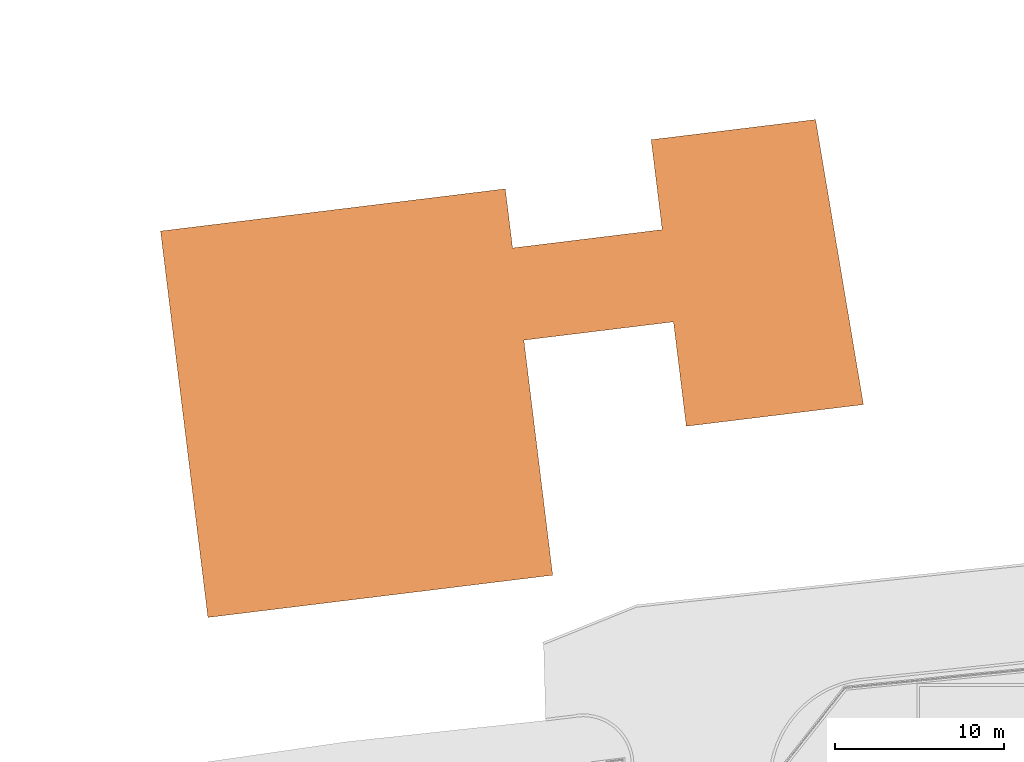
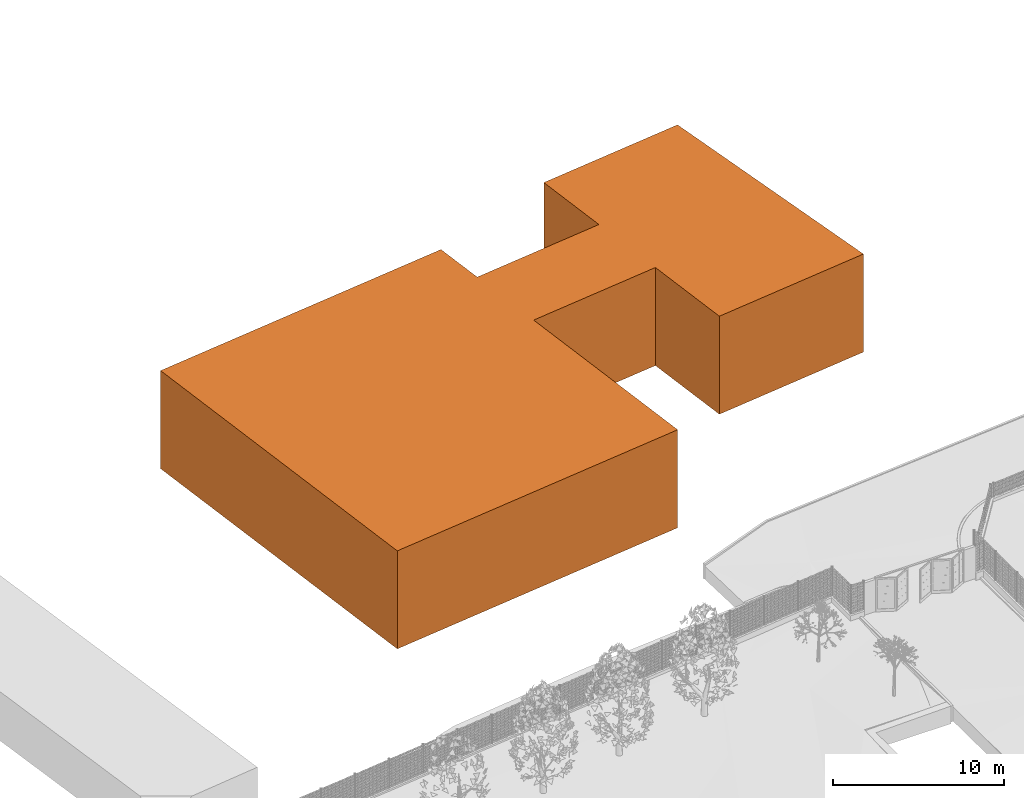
# One storey, part 47 of 1809: 1 proxy.
"""IFC2X3 building model written with IfcOpenShell, lengths in millimetres."""

import ifcopenshell
import ifcopenshell.guid

model = None  # the IFC model being written
_history = None  # IfcOwnerHistory: only IFC2X3 demands one
_inside = {}  # id of a spatial element -> (the spatial element, [elements in it])
_under = {}  # id of a project, library or spatial element -> (it, [spatial elements below it])
_declared = {}  # id of a project -> (the project, [libraries it declares])
_typed = {}  # id of a type object -> (the type object, [elements of that type])
_made_of = {}  # id of a material, layer set ... -> (it, [elements and type objects made of it])


def new_model(schema):
    """Start an empty IFC model of exactly this schema.

    Asked for "IFC4X3", IfcOpenShell would pick the latest addendum, in which some entities
    have other attributes; the version numbers below select the first issue.
    IFC2X3 requires an IfcOwnerHistory on every rooted entity: one is made here for all.
    """
    global model, _history
    if schema == "IFC4X3":
        model = ifcopenshell.file(schema_version=(4, 3, 0, 0))
    else:
        model = ifcopenshell.file(schema=schema)
    _inside.clear()
    _under.clear()
    _declared.clear()
    _typed.clear()
    _made_of.clear()
    _history = None
    if model.schema == "IFC2X3":
        org = make("IfcOrganization", Name="unknown")
        user = make(
            "IfcPersonAndOrganization",
            ThePerson=make("IfcPerson", FamilyName="unknown"),
            TheOrganization=org,
        )
        app = make(
            "IfcApplication",
            ApplicationDeveloper=org,
            Version="unknown",
            ApplicationFullName="unknown",
            ApplicationIdentifier="unknown",
        )
        _history = make(
            "IfcOwnerHistory",
            OwningUser=user,
            OwningApplication=app,
            ChangeAction="ADDED",
            CreationDate=0,
        )
    return model


def make(cls, **values):
    """One entity of the class cls with the attributes given. An attribute that is None is left unset."""
    return model.create_entity(
        cls, **{name: value for name, value in values.items() if value is not None}
    )


def entity(cls, *values):
    """Any entity or typed value of the class cls, its attributes in the order of the schema. None: left unset."""
    e = model.create_entity(cls)
    for i, value in enumerate(values):
        if value is not None:
            e[i] = value
    return e


def rooted(cls, **values):
    """An entity with a GlobalId (a new one), such as an element, a storey or a relation."""
    return make(cls, GlobalId=ifcopenshell.guid.new(), OwnerHistory=_history, **values)


def si_unit(unit_type, name, prefix=None):
    """IfcSIUnit, for example si_unit("LENGTHUNIT", "METRE", prefix="MILLI")."""
    return make("IfcSIUnit", UnitType=unit_type, Prefix=prefix, Name=name)


def converted_unit(unit_type, name, factor, base, dimensions=None, offset=None):
    """IfcConversionBasedUnit, such as the inch: factor (a typed value) times the base unit."""
    return make(
        "IfcConversionBasedUnit"
        if offset is None
        else "IfcConversionBasedUnitWithOffset",
        ConversionOffset=offset,
        Dimensions=None
        if dimensions is None
        else entity("IfcDimensionalExponents", *dimensions),
        UnitType=unit_type,
        Name=name,
        ConversionFactor=make(
            "IfcMeasureWithUnit", ValueComponent=factor, UnitComponent=base
        ),
    )


def derived_unit(unit_type, elements):
    """IfcDerivedUnit: a product of units, each with its exponent."""
    return make(
        "IfcDerivedUnit",
        Elements=[
            make("IfcDerivedUnitElement", Unit=unit, Exponent=power)
            for unit, power in elements
        ],
        UnitType=unit_type,
    )


def money_unit(currency):
    """IfcMonetaryUnit."""
    return make("IfcMonetaryUnit", Currency=currency)


def assignment(units):
    """IfcUnitAssignment: the units of a project."""
    return None if units is None else make("IfcUnitAssignment", Units=units)


def point(xyz):
    """IfcCartesianPoint."""
    return None if xyz is None else make("IfcCartesianPoint", Coordinates=xyz)


def direction(xyz):
    """IfcDirection."""
    return None if xyz is None else make("IfcDirection", DirectionRatios=xyz)


def frame(location, z_axis=None, x_axis=None):
    """IfcAxis2Placement3D, a coordinate frame: its origin and axes. An axis left out is left unset."""
    return make(
        "IfcAxis2Placement3D",
        Location=point(location),
        Axis=direction(z_axis),
        RefDirection=direction(x_axis),
    )


def origin_with_axes():
    """The frame at (0, 0, 0) with the z axis (0, 0, 1) and the x axis (1, 0, 0) written out."""
    return frame((0.0, 0.0, 0.0), z_axis=(0.0, 0.0, 1.0), x_axis=(1.0, 0.0, 0.0))


def place(relative_to, where):
    """IfcLocalPlacement: puts the frame where relative to a parent placement (None: the world)."""
    return make(
        "IfcLocalPlacement", PlacementRelTo=relative_to, RelativePlacement=where
    )


def context(
    kind, dimensions, precision=None, world=None, true_north=None, identifier=None
):
    """IfcGeometricRepresentationContext, for example the 3D "Model" context."""
    return make(
        "IfcGeometricRepresentationContext",
        ContextIdentifier=identifier,
        ContextType=kind,
        CoordinateSpaceDimension=dimensions,
        Precision=precision,
        WorldCoordinateSystem=world,
        TrueNorth=true_north,
    )


def subcontext(parent, identifier, kind, view, scale=None):
    """IfcGeometricRepresentationSubContext, for example "Body" below "Model"."""
    return make(
        "IfcGeometricRepresentationSubContext",
        ContextIdentifier=identifier,
        ContextType=kind,
        ParentContext=parent,
        TargetScale=scale,
        TargetView=view,
    )


def project(units=None, contexts=None):
    """IfcProject with its units and contexts."""
    return rooted(
        "IfcProject",
        Name="project",
        RepresentationContexts=contexts,
        UnitsInContext=assignment(units),
    )


def spatial(cls, under=None, at=None, **own):
    """A site, building, storey or space (cls), placed at a placement, below another one or the project."""
    s = rooted(cls, ObjectPlacement=at, **own)
    if under is not None:
        _under.setdefault(under.id(), (under, []))[1].append(s)
    return s


def polyline(points):
    """IfcPolyline through the points."""
    return make("IfcPolyline", Points=[point(p) for p in points])


def outline(outer, holes=None, kind="AREA"):
    """IfcArbitraryClosedProfileDef: a profile drawn as a closed curve; with holes, ...WithVoids."""
    if holes is None:
        return make("IfcArbitraryClosedProfileDef", ProfileType=kind, OuterCurve=outer)
    return make(
        "IfcArbitraryProfileDefWithVoids",
        ProfileType=kind,
        OuterCurve=outer,
        InnerCurves=holes,
    )


def extrude(swept, where, along, depth):
    """IfcExtrudedAreaSolid: the profile swept, set in the frame where, extruded along a direction by depth."""
    return make(
        "IfcExtrudedAreaSolid",
        SweptArea=swept,
        Position=where,
        ExtrudedDirection=direction(along),
        Depth=depth,
    )


def shape(context_of_items, identifier, shape_type, items):
    """IfcShapeRepresentation: the items that make up one representation, for example the "Body"."""
    return make(
        "IfcShapeRepresentation",
        ContextOfItems=context_of_items,
        RepresentationIdentifier=identifier,
        RepresentationType=shape_type,
        Items=items,
    )


def material(Name=None, Category=None):
    """IfcMaterial."""
    return make("IfcMaterial", Name=Name, Category=Category)


def made_of(thing, what):
    """Note that an element or type object is made of a material, layer set ...; save() writes the relation."""
    if what is not None:
        _made_of.setdefault(what.id(), (what, []))[1].append(thing)
    return thing


def type_object(cls, material=None, **own):
    """A type object (cls), such as IfcWallType, which elements share."""
    return made_of(rooted(cls, **own), material)


def element(
    cls,
    number,
    at=None,
    inside=None,
    cuts=None,
    type_object=None,
    material=None,
    context=None,
    identifier="Body",
    shape_type=None,
    held_by="IfcProductDefinitionShape",
    body=None,
    shapes=None,
    **own,
):
    """One element of the class cls, such as IfcWall. Its Tag is "e" and its number.

    at: its placement. inside: the storey or other place that contains it. cuts: it is an
    opening in that element (IfcRelVoidsElement). A single representation is given by context,
    identifier, shape_type and body (its items); several are given by shapes. held_by: the class
    of the entity that holds the representations. save() writes the other relations.
    """
    e = rooted(cls, Tag="e%d" % number, ObjectPlacement=at, **own)
    if body is not None:
        shapes = [shape(context, identifier, shape_type, body)]
    if shapes is not None:
        e.Representation = make(held_by, Representations=shapes)
    if inside is not None:
        _inside.setdefault(inside.id(), (inside, []))[1].append(e)
    if cuts is not None:
        rooted(
            "IfcRelVoidsElement", RelatingBuildingElement=cuts, RelatedOpeningElement=e
        )
    if type_object is not None:
        _typed.setdefault(type_object.id(), (type_object, []))[1].append(e)
    return made_of(e, material)


def aggregate(whole, parts):
    """IfcRelAggregates: a whole, such as a stair, and the parts it consists of."""
    return rooted("IfcRelAggregates", RelatingObject=whole, RelatedObjects=parts)


def save(model, path):
    """Write the relations noted so far, then the file.

    IfcRelAggregates (storeys below a building ...), IfcRelContainedInSpatialStructure (elements
    in a storey), IfcRelDefinesByType, IfcRelAssociatesMaterial and IfcRelDeclares: one each for
    every whole, place, type object, material and project.
    """
    for whole, parts in _under.values():
        aggregate(whole, parts)
    for where, things in _inside.values():
        rooted(
            "IfcRelContainedInSpatialStructure",
            RelatedElements=things,
            RelatingStructure=where,
        )
    for kind, things in _typed.values():
        rooted("IfcRelDefinesByType", RelatedObjects=things, RelatingType=kind)
    for what, things in _made_of.values():
        rooted("IfcRelAssociatesMaterial", RelatedObjects=things, RelatingMaterial=what)
    for by, libraries in _declared.values():
        rooted("IfcRelDeclares", RelatingContext=by, RelatedDefinitions=libraries)
    model.write(path)


model = new_model("IFC2X3")

# Units and contexts
model_context = context("Model", 3, precision=0.01, world=origin_with_axes(), true_north=direction((0.0, 1.0)))
body_context = subcontext(model_context, "Body", "Model", "MODEL_VIEW")
ifc_project = project(units=[si_unit("LENGTHUNIT", "METRE", prefix="MILLI"), si_unit("AREAUNIT", "SQUARE_METRE"), si_unit("VOLUMEUNIT", "CUBIC_METRE"), converted_unit("PLANEANGLEUNIT", "DEGREE", entity("IfcPlaneAngleMeasure", 0.0174532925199), si_unit("PLANEANGLEUNIT", "RADIAN"), dimensions=[0, 0, 0, 0, 0, 0, 0]), si_unit("SOLIDANGLEUNIT", "STERADIAN"), money_unit("EUR"), converted_unit("TIMEUNIT", "Year", entity("IfcTimeMeasure", 31556926.0), si_unit("TIMEUNIT", "SECOND"), dimensions=[0, 0, 1, 0, 0, 0, 0]), si_unit("MASSUNIT", "GRAM", prefix="KILO"), si_unit("THERMODYNAMICTEMPERATUREUNIT", "DEGREE_CELSIUS"), si_unit("LUMINOUSINTENSITYUNIT", "LUMEN"), si_unit("ENERGYUNIT", "JOULE", prefix="MEGA"), derived_unit("THERMALCONDUCTANCEUNIT", [(si_unit("POWERUNIT", "WATT"), 1), (si_unit("LENGTHUNIT", "METRE"), -1), (si_unit("THERMODYNAMICTEMPERATUREUNIT", "KELVIN"), -1)]), derived_unit("SPECIFICHEATCAPACITYUNIT", [(si_unit("ENERGYUNIT", "JOULE"), 1), (si_unit("MASSUNIT", "GRAM", prefix="KILO"), -1), (si_unit("THERMODYNAMICTEMPERATUREUNIT", "KELVIN"), -1)]), derived_unit("MASSDENSITYUNIT", [(si_unit("MASSUNIT", "GRAM", prefix="KILO"), 1), (si_unit("VOLUMEUNIT", "CUBIC_METRE"), -1)])], contexts=[model_context])

# Site, building, storey
site_placement = place(None, origin_with_axes())
site = spatial("IfcSite", under=ifc_project, at=site_placement, Name="Politse- ja Piirivalveameti ning Päästeameti ühishoone", CompositionType="ELEMENT")
building_placement = place(site_placement, origin_with_axes())
building = spatial("IfcBuilding", under=site, at=building_placement, Name="Politse- ja Piirivalveameti ning Päästeameti ühishoone", CompositionType="ELEMENT")
storey_placement = place(building_placement, origin_with_axes())
storey = spatial("IfcBuildingStorey", under=building, at=storey_placement, Name="Esimene korrus", CompositionType="ELEMENT", Elevation=0.0)

# Proxy
ifc_material = material(Name="VKK-00_GENEERILINE - VÄLINE KESKKOND")
building_element_proxy_type = type_object("IfcBuildingElementProxyType", Name="VKK-00_GENEERILINE - VÄLINE KESKKOND 7000", PredefinedType="NOTDEFINED")
proxy_placement = place(storey_placement, frame((23292.1870014, 108515.805353, 7000.0), z_axis=(0.0, 0.0, 1.0), x_axis=(1.0, 0.0, 0.0)))
element("IfcBuildingElementProxy", 1, at=proxy_placement, inside=storey, type_object=building_element_proxy_type, material=ifc_material, Name="KÕRVALHOONE", context=body_context, shape_type="SweptSolid", body=[
    extrude(outline(polyline([(0.0, 0.0), (2800.36979855, -22845.1220408), (23183.8590996, -20346.5007716), (21480.4399821, -6450.1869182), (30327.2722121, -5365.7365158), (31084.2562988, -11541.133012), (41556.0168976, -10257.4978418), (38725.2754126, 6592.30074172), (29007.4682029, 5401.08566441), (29659.1220729, 84.9619887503), (20812.2898428, -999.488413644), (20383.489301, 2498.62126916), (0.0, 0.0)])), frame((0.0, 0.0, -7000.0), z_axis=(0.0, 0.0, 1.0), x_axis=(1.0, 0.0, 0.0)), (0.0, 0.0, 1.0), 7000.0),
])

save(model, "model.ifc")
